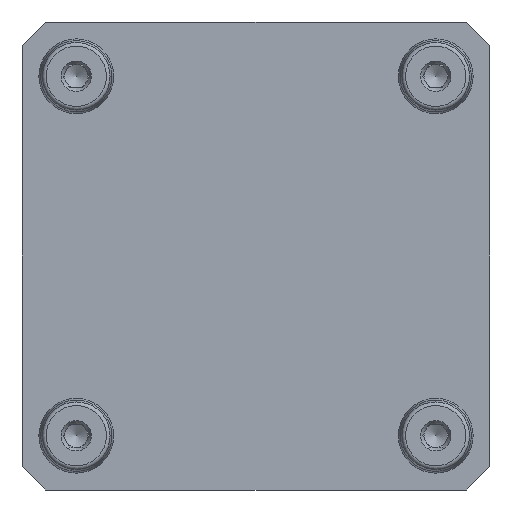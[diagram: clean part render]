
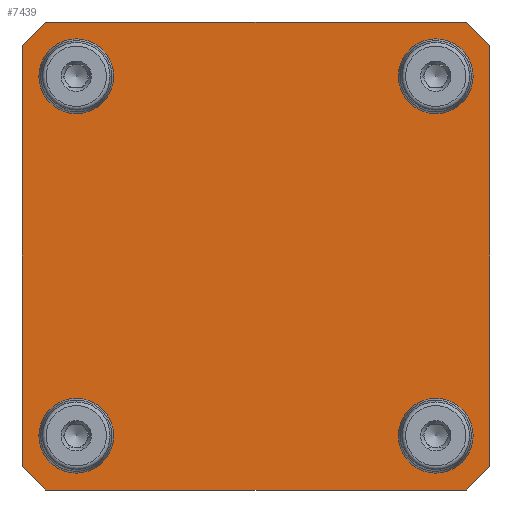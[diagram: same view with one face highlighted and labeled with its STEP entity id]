
A CAD part, front view. The second image highlights one B-rep face of the part: STEP entity #7439.
In plain terms, the highlighted planar face has unit normal (0, -1, 0).
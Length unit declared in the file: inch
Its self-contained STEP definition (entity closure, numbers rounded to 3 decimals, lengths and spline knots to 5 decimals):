
#175 = DIRECTION ( 'NONE',  ( 0.707, 0., 0.707 ) ) ;
#181 = DIRECTION ( 'NONE',  ( 0., -1., 0. ) ) ;
#240 = CARTESIAN_POINT ( 'NONE',  ( -1.88976, -0.98425, 1.88976 ) ) ;
#357 = VERTEX_POINT ( 'NONE', #2237 ) ;
#587 = EDGE_LOOP ( 'NONE', ( #3873 ) ) ;
#676 = LINE ( 'NONE', #9634, #9005 ) ;
#730 = EDGE_CURVE ( 'NONE', #9511, #998, #9277, .T. ) ;
#766 = CARTESIAN_POINT ( 'NONE',  ( -2.21063, -0.98425, 2.46063 ) ) ;
#998 = VERTEX_POINT ( 'NONE', #2051 ) ;
#1273 = VECTOR ( 'NONE', #9429, 39.37008 ) ;
#1320 = CARTESIAN_POINT ( 'NONE',  ( -1.88976, -0.98425, 1.57441 ) ) ;
#1424 = ORIENTED_EDGE ( 'NONE', *, *, #5639, .F. ) ;
#1845 = CARTESIAN_POINT ( 'NONE',  ( 2.21063, -0.98425, 2.46063 ) ) ;
#1848 = DIRECTION ( 'NONE',  ( -0.707, 0., -0.707 ) ) ;
#1894 = DIRECTION ( 'NONE',  ( 0.707, 0., -0.707 ) ) ;
#1959 = AXIS2_PLACEMENT_3D ( 'NONE', #3144, #2383, #5293 ) ;
#2051 = CARTESIAN_POINT ( 'NONE',  ( 2.21063, -0.98425, 2.46063 ) ) ;
#2237 = CARTESIAN_POINT ( 'NONE',  ( 2.21063, -0.98425, -2.46063 ) ) ;
#2383 = DIRECTION ( 'NONE',  ( 0., -1., 0. ) ) ;
#2620 = DIRECTION ( 'NONE',  ( 0., -1., 0. ) ) ;
#2662 = CARTESIAN_POINT ( 'NONE',  ( 0., -0.98425, 0. ) ) ;
#2760 = EDGE_LOOP ( 'NONE', ( #8604 ) ) ;
#2823 = EDGE_CURVE ( 'NONE', #5637, #5637, #3345, .T. ) ;
#2903 = CIRCLE ( 'NONE', #9289, 0.31535 ) ;
#2929 = VECTOR ( 'NONE', #2983, 39.37008 ) ;
#2983 = DIRECTION ( 'NONE',  ( 0., 0., 1. ) ) ;
#3087 = CIRCLE ( 'NONE', #1959, 0.31535 ) ;
#3144 = CARTESIAN_POINT ( 'NONE',  ( -1.88976, -0.98425, -1.88976 ) ) ;
#3155 = CARTESIAN_POINT ( 'NONE',  ( 1.88976, -0.98425, 1.57441 ) ) ;
#3191 = ORIENTED_EDGE ( 'NONE', *, *, #5420, .F. ) ;
#3309 = VERTEX_POINT ( 'NONE', #5021 ) ;
#3330 = VECTOR ( 'NONE', #1848, 39.37008 ) ;
#3342 = DIRECTION ( 'NONE',  ( 0., -1., 0. ) ) ;
#3345 = CIRCLE ( 'NONE', #8627, 0.31535 ) ;
#3468 = LINE ( 'NONE', #6457, #1273 ) ;
#3596 = LINE ( 'NONE', #8866, #2929 ) ;
#3663 = VECTOR ( 'NONE', #1894, 39.37008 ) ;
#3739 = ORIENTED_EDGE ( 'NONE', *, *, #7666, .F. ) ;
#3785 = ORIENTED_EDGE ( 'NONE', *, *, #4894, .F. ) ;
#3822 = AXIS2_PLACEMENT_3D ( 'NONE', #240, #181, #4021 ) ;
#3873 = ORIENTED_EDGE ( 'NONE', *, *, #9264, .F. ) ;
#3883 = VERTEX_POINT ( 'NONE', #3155 ) ;
#4021 = DIRECTION ( 'NONE',  ( 0., 0., -1. ) ) ;
#4051 = FACE_BOUND ( 'NONE', #7996, .T. ) ;
#4087 = PLANE ( 'NONE',  #8483 ) ;
#4105 = ORIENTED_EDGE ( 'NONE', *, *, #2823, .F. ) ;
#4519 = CARTESIAN_POINT ( 'NONE',  ( -2.46063, -0.98425, -2.21063 ) ) ;
#4642 = CARTESIAN_POINT ( 'NONE',  ( -2.46063, -0.98425, 2.21063 ) ) ;
#4649 = VERTEX_POINT ( 'NONE', #5182 ) ;
#4738 = VECTOR ( 'NONE', #5338, 39.37008 ) ;
#4742 = VECTOR ( 'NONE', #175, 39.37008 ) ;
#4828 = FACE_OUTER_BOUND ( 'NONE', #6052, .T. ) ;
#4894 = EDGE_CURVE ( 'NONE', #3309, #4649, #676, .T. ) ;
#4899 = ORIENTED_EDGE ( 'NONE', *, *, #8507, .F. ) ;
#4997 = VERTEX_POINT ( 'NONE', #6442 ) ;
#5002 = CARTESIAN_POINT ( 'NONE',  ( 1.88976, -0.98425, -2.20511 ) ) ;
#5009 = CARTESIAN_POINT ( 'NONE',  ( 1.88976, -0.98425, -1.88976 ) ) ;
#5021 = CARTESIAN_POINT ( 'NONE',  ( 2.46063, -0.98425, 2.21063 ) ) ;
#5171 = VECTOR ( 'NONE', #7617, 39.37008 ) ;
#5182 = CARTESIAN_POINT ( 'NONE',  ( 2.46063, -0.98425, -2.21063 ) ) ;
#5290 = EDGE_CURVE ( 'NONE', #6144, #4997, #8994, .T. ) ;
#5293 = DIRECTION ( 'NONE',  ( 0., 0., -1. ) ) ;
#5338 = DIRECTION ( 'NONE',  ( -0.707, 0., 0.707 ) ) ;
#5420 = EDGE_CURVE ( 'NONE', #4649, #357, #8544, .T. ) ;
#5595 = ORIENTED_EDGE ( 'NONE', *, *, #5726, .F. ) ;
#5603 = DIRECTION ( 'NONE',  ( 0., 0., -1. ) ) ;
#5622 = LINE ( 'NONE', #8587, #3663 ) ;
#5637 = VERTEX_POINT ( 'NONE', #5002 ) ;
#5639 = EDGE_CURVE ( 'NONE', #357, #6144, #3468, .T. ) ;
#5726 = EDGE_CURVE ( 'NONE', #9156, #9511, #8292, .T. ) ;
#5981 = DIRECTION ( 'NONE',  ( 0., 0., -1. ) ) ;
#6052 = EDGE_LOOP ( 'NONE', ( #6159, #1424, #3191, #3785, #3739, #9279, #5595, #6744 ) ) ;
#6144 = VERTEX_POINT ( 'NONE', #6587 ) ;
#6159 = ORIENTED_EDGE ( 'NONE', *, *, #5290, .F. ) ;
#6182 = DIRECTION ( 'NONE',  ( 0., -1., 0. ) ) ;
#6442 = CARTESIAN_POINT ( 'NONE',  ( -2.46063, -0.98425, -2.21063 ) ) ;
#6457 = CARTESIAN_POINT ( 'NONE',  ( -2.21063, -0.98425, -2.46063 ) ) ;
#6587 = CARTESIAN_POINT ( 'NONE',  ( -2.21063, -0.98425, -2.46063 ) ) ;
#6744 = ORIENTED_EDGE ( 'NONE', *, *, #9492, .F. ) ;
#6949 = CIRCLE ( 'NONE', #3822, 0.31535 ) ;
#7036 = FACE_BOUND ( 'NONE', #8853, .T. ) ;
#7146 = CARTESIAN_POINT ( 'NONE',  ( 2.21063, -0.98425, -2.46063 ) ) ;
#7417 = CARTESIAN_POINT ( 'NONE',  ( -2.21063, -0.98425, 2.46063 ) ) ;
#7439 = ADVANCED_FACE ( 'NONE', ( #8476, #4051, #7036, #9259, #4828 ), #4087, .T. ) ;
#7533 = CARTESIAN_POINT ( 'NONE',  ( -1.88976, -0.98425, -2.20511 ) ) ;
#7617 = DIRECTION ( 'NONE',  ( 1., 0., 0. ) ) ;
#7666 = EDGE_CURVE ( 'NONE', #998, #3309, #5622, .T. ) ;
#7756 = EDGE_CURVE ( 'NONE', #8013, #8013, #6949, .T. ) ;
#7812 = CARTESIAN_POINT ( 'NONE',  ( 1.88976, -0.98425, 1.88976 ) ) ;
#7996 = EDGE_LOOP ( 'NONE', ( #4899 ) ) ;
#8013 = VERTEX_POINT ( 'NONE', #1320 ) ;
#8292 = LINE ( 'NONE', #766, #4742 ) ;
#8476 = FACE_BOUND ( 'NONE', #587, .T. ) ;
#8483 = AXIS2_PLACEMENT_3D ( 'NONE', #2662, #2620, #5603 ) ;
#8507 = EDGE_CURVE ( 'NONE', #3883, #3883, #2903, .T. ) ;
#8544 = LINE ( 'NONE', #7146, #3330 ) ;
#8587 = CARTESIAN_POINT ( 'NONE',  ( 2.46063, -0.98425, 2.21063 ) ) ;
#8604 = ORIENTED_EDGE ( 'NONE', *, *, #7756, .F. ) ;
#8627 = AXIS2_PLACEMENT_3D ( 'NONE', #5009, #6182, #5981 ) ;
#8853 = EDGE_LOOP ( 'NONE', ( #4105 ) ) ;
#8866 = CARTESIAN_POINT ( 'NONE',  ( -2.46063, -0.98425, 2.21063 ) ) ;
#8885 = DIRECTION ( 'NONE',  ( 0., 0., -1. ) ) ;
#8994 = LINE ( 'NONE', #4519, #4738 ) ;
#9005 = VECTOR ( 'NONE', #8885, 39.37008 ) ;
#9149 = VERTEX_POINT ( 'NONE', #7533 ) ;
#9156 = VERTEX_POINT ( 'NONE', #4642 ) ;
#9259 = FACE_BOUND ( 'NONE', #2760, .T. ) ;
#9264 = EDGE_CURVE ( 'NONE', #9149, #9149, #3087, .T. ) ;
#9277 = LINE ( 'NONE', #1845, #5171 ) ;
#9279 = ORIENTED_EDGE ( 'NONE', *, *, #730, .F. ) ;
#9289 = AXIS2_PLACEMENT_3D ( 'NONE', #7812, #3342, #9382 ) ;
#9382 = DIRECTION ( 'NONE',  ( 0., 0., -1. ) ) ;
#9429 = DIRECTION ( 'NONE',  ( -1., 0., 0. ) ) ;
#9492 = EDGE_CURVE ( 'NONE', #4997, #9156, #3596, .T. ) ;
#9511 = VERTEX_POINT ( 'NONE', #7417 ) ;
#9634 = CARTESIAN_POINT ( 'NONE',  ( 2.46063, -0.98425, -2.21063 ) ) ;
